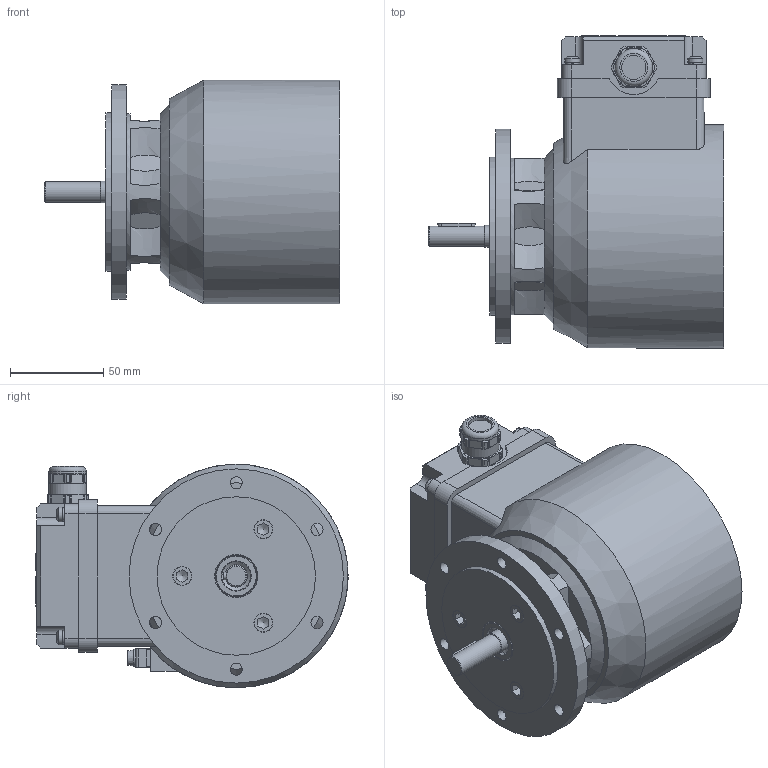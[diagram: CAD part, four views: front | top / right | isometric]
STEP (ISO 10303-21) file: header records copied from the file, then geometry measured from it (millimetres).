
FILE_DESCRIPTION(/* description */ (''),/* implementation_level */ '2;1');
FILE_NAME(/* name */ 'M:\__3D-Daten\Loeschen\Step\Baumer_EEXOG9_CAD.stp',/* time_stamp */ '2018-07-30T10:27:19+02:00',/* author */ ('mbir'),/* organization */ (''),/* preprocessor_version */ 'ST-DEVELOPER v16.1',/* originating_system */ 'Autodesk Inventor 2016',/* authorisation */ '');
FILE_SCHEMA (('AUTOMOTIVE_DESIGN { 1 0 10303 214 3 1 1 }'));
Length unit declared in the file: centimetre
Products named in the file (1): Baumer_EEXOG9_CAD
Bounding box: 158.3 x 167.5 x 120 mm (x, y, z)
Volume: 1281228.2 mm3; surface area: 177217.2 mm2
Topology: 1 solids, 28 shells, 1240 faces, 3262 edges, 2143 vertices
Faces by surface type: plane 657, cylinder 340, bspline 113, cone 86, torus 44
Full cylindrical faces by diameter (mm): 2.459 x3, 3.242 x14, 3.9 x8, 4 x10, 4.134 x1, 4.2 x6, 4.5 x4, 4.51 x1, 5 x7, 5.2 x1, 5.7 x2, 6 x1, 6.5 x8, 6.9 x2, 7 x6, 8 x4, 8.5 x6, 10.106 x5, 11.002 x1, 11.5 x1, 11.75 x1, 13 x1, 16.2 x1, 19.5 x1, 20 x3, 22 x2, 22.376 x1, 38 x1, 84 x1, 85 x1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
Entity records: 38660 total; most frequent: CARTESIAN_POINT 9790, ORIENTED_EDGE 5966, DIRECTION 5642, EDGE_CURVE 2983, VERTEX_POINT 2053, AXIS2_PLACEMENT_3D 1999, LINE 1644, VECTOR 1644
